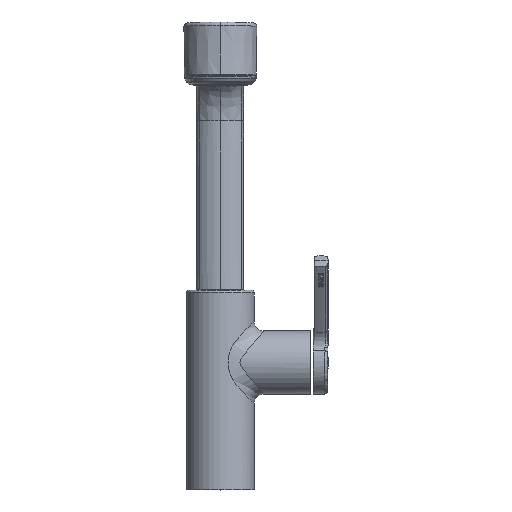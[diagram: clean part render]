
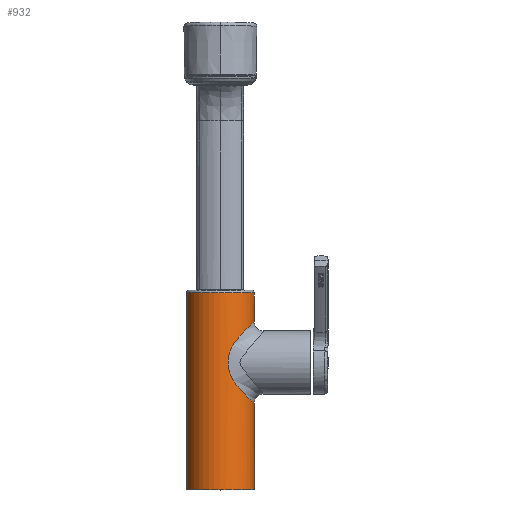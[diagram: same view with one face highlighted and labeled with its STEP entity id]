
A CAD part, top view. The second image highlights one B-rep face of the part: STEP entity #932.
In plain terms, the highlighted cylindrical face has radius 22.5 mm (diameter 45 mm), a partial arc.
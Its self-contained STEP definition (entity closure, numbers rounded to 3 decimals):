
#16=CARTESIAN_POINT('',(22.5,57.5,0.));
#94=CARTESIAN_POINT('',(22.5,111.5,0.));
#124=DIRECTION('',(0.,1.,0.));
#125=VECTOR('',#124,130.731);
#126=CARTESIAN_POINT('',(-22.5,0.,0.));
#127=LINE('',#126,#125);
#128=CARTESIAN_POINT('',(0.,130.731,0.));
#129=DIRECTION('',(0.,1.,0.));
#130=DIRECTION('',(-1.,0.,0.));
#131=AXIS2_PLACEMENT_3D('',#128,#129,#130);
#133=DIRECTION('',(0.,1.,0.));
#134=VECTOR('',#133,19.231);
#135=CARTESIAN_POINT('',(22.5,111.5,0.));
#136=LINE('',#135,#134);
#137=CARTESIAN_POINT('',(22.5,111.5,0.));
#138=CARTESIAN_POINT('',(22.5,111.5,0.206));
#139=CARTESIAN_POINT('',(22.494,111.496,0.621));
#140=CARTESIAN_POINT('',(22.468,111.477,1.25));
#141=CARTESIAN_POINT('',(22.423,111.445,1.893));
#142=CARTESIAN_POINT('',(22.358,111.396,2.555));
#143=CARTESIAN_POINT('',(22.268,111.328,3.246));
#144=CARTESIAN_POINT('',(22.15,111.236,3.979));
#145=CARTESIAN_POINT('',(21.995,111.113,4.765));
#146=CARTESIAN_POINT('',(21.794,110.95,5.616));
#147=CARTESIAN_POINT('',(21.537,110.737,6.539));
#148=CARTESIAN_POINT('',(21.196,110.447,7.577));
#149=CARTESIAN_POINT('',(20.773,110.076,8.67));
#150=CARTESIAN_POINT('',(20.3,109.649,9.727));
#151=CARTESIAN_POINT('',(19.76,109.149,10.783));
#152=CARTESIAN_POINT('',(19.158,108.58,11.82));
#153=CARTESIAN_POINT('',(18.492,107.935,12.836));
#154=CARTESIAN_POINT('',(17.77,107.217,13.821));
#155=CARTESIAN_POINT('',(16.954,106.388,14.811));
#156=CARTESIAN_POINT('',(16.082,105.483,15.753));
#157=CARTESIAN_POINT('',(15.12,104.46,16.681));
#158=CARTESIAN_POINT('',(14.052,103.303,17.591));
#159=CARTESIAN_POINT('',(12.936,102.07,18.427));
#160=CARTESIAN_POINT('',(11.786,100.758,19.181));
#161=CARTESIAN_POINT('',(10.713,99.477,19.797));
#162=CARTESIAN_POINT('',(9.806,98.309,20.258));
#163=CARTESIAN_POINT('',(8.994,97.159,20.63));
#164=CARTESIAN_POINT('',(8.274,96.02,20.928));
#165=CARTESIAN_POINT('',(7.623,94.855,21.173));
#166=CARTESIAN_POINT('',(7.053,93.68,21.368));
#167=CARTESIAN_POINT('',(6.573,92.524,21.52));
#168=CARTESIAN_POINT('',(6.184,91.417,21.634));
#169=CARTESIAN_POINT('',(5.875,90.368,21.72));
#170=CARTESIAN_POINT('',(5.649,89.445,21.78));
#171=CARTESIAN_POINT('',(5.487,88.646,21.821));
#172=CARTESIAN_POINT('',(5.36,87.905,21.852));
#173=CARTESIAN_POINT('',(5.247,87.068,21.88));
#174=CARTESIAN_POINT('',(5.162,86.165,21.9));
#175=CARTESIAN_POINT('',(5.119,85.37,21.91));
#176=CARTESIAN_POINT('',(5.101,84.59,21.914));
#177=CARTESIAN_POINT('',(5.114,83.72,21.911));
#178=CARTESIAN_POINT('',(5.157,82.905,21.901));
#179=CARTESIAN_POINT('',(5.225,82.131,21.885));
#180=CARTESIAN_POINT('',(5.318,81.351,21.863));
#181=CARTESIAN_POINT('',(5.45,80.501,21.83));
#182=CARTESIAN_POINT('',(5.632,79.582,21.784));
#183=CARTESIAN_POINT('',(5.856,78.656,21.725));
#184=CARTESIAN_POINT('',(6.155,77.627,21.643));
#185=CARTESIAN_POINT('',(6.547,76.512,21.528));
#186=CARTESIAN_POINT('',(7.031,75.355,21.376));
#187=CARTESIAN_POINT('',(7.6,74.193,21.181));
#188=CARTESIAN_POINT('',(8.237,73.054,20.942));
#189=CARTESIAN_POINT('',(8.987,71.867,20.633));
#190=CARTESIAN_POINT('',(9.822,70.683,20.251));
#191=CARTESIAN_POINT('',(10.762,69.467,19.77));
#192=CARTESIAN_POINT('',(11.83,68.184,19.153));
#193=CARTESIAN_POINT('',(12.936,66.921,18.426));
#194=CARTESIAN_POINT('',(14.044,65.7,17.598));
#195=CARTESIAN_POINT('',(15.118,64.541,16.684));
#196=CARTESIAN_POINT('',(16.084,63.515,15.752));
#197=CARTESIAN_POINT('',(16.964,62.601,14.799));
#198=CARTESIAN_POINT('',(17.785,61.765,13.801));
#199=CARTESIAN_POINT('',(18.498,61.054,12.827));
#200=CARTESIAN_POINT('',(19.159,60.415,11.818));
#201=CARTESIAN_POINT('',(19.758,59.85,10.787));
#202=CARTESIAN_POINT('',(20.298,59.352,9.732));
#203=CARTESIAN_POINT('',(20.773,58.925,8.671));
#204=CARTESIAN_POINT('',(21.197,58.554,7.575));
#205=CARTESIAN_POINT('',(21.537,58.264,6.538));
#206=CARTESIAN_POINT('',(21.794,58.051,5.616));
#207=CARTESIAN_POINT('',(21.995,57.889,4.765));
#208=CARTESIAN_POINT('',(22.15,57.766,3.979));
#209=CARTESIAN_POINT('',(22.268,57.673,3.246));
#210=CARTESIAN_POINT('',(22.358,57.605,2.555));
#211=CARTESIAN_POINT('',(22.423,57.556,1.893));
#212=CARTESIAN_POINT('',(22.468,57.523,1.25));
#213=CARTESIAN_POINT('',(22.494,57.504,0.621));
#214=CARTESIAN_POINT('',(22.5,57.5,0.206));
#215=CARTESIAN_POINT('',(22.5,57.5,0.));
#217=DIRECTION('',(0.,1.,0.));
#218=VECTOR('',#217,57.5);
#219=CARTESIAN_POINT('',(22.5,0.,0.));
#220=LINE('',#219,#218);
#221=CARTESIAN_POINT('',(0.,0.,0.));
#222=DIRECTION('',(0.,-1.,0.));
#223=DIRECTION('',(1.,0.,0.));
#224=AXIS2_PLACEMENT_3D('',#221,#222,#223);
#419=CARTESIAN_POINT('',(22.5,0.,0.));
#420=CARTESIAN_POINT('',(-22.5,0.,0.));
#421=VERTEX_POINT('',#419);
#422=VERTEX_POINT('',#420);
#435=CARTESIAN_POINT('',(22.5,130.731,0.));
#436=CARTESIAN_POINT('',(-22.5,130.731,0.));
#437=VERTEX_POINT('',#435);
#438=VERTEX_POINT('',#436);
#439=VERTEX_POINT('',#16);
#440=VERTEX_POINT('',#94);
#917=CARTESIAN_POINT('',(0.,-6.645,0.));
#918=DIRECTION('',(0.,1.,0.));
#919=DIRECTION('',(1.,0.,0.));
#920=AXIS2_PLACEMENT_3D('',#917,#918,#919);
#921=CYLINDRICAL_SURFACE('',#920,22.5);
#922=ORIENTED_EDGE('',*,*,#852,.T.);
#923=ORIENTED_EDGE('',*,*,#911,.T.);
#924=ORIENTED_EDGE('',*,*,#859,.F.);
#926=ORIENTED_EDGE('',*,*,#925,.T.);
#927=ORIENTED_EDGE('',*,*,#856,.F.);
#929=ORIENTED_EDGE('',*,*,#928,.T.);
#930=EDGE_LOOP('',(#922,#923,#924,#926,#927,#929));
#931=FACE_OUTER_BOUND('',#930,.F.);
#932=ADVANCED_FACE('',(#931),#921,.T.);
#132=CIRCLE('',#131,22.5);
#216=B_SPLINE_CURVE_WITH_KNOTS('',3,(#137,#138,#139,#140,#141,#142,#143,#144,
#145,#146,#147,#148,#149,#150,#151,#152,#153,#154,#155,#156,#157,#158,#159,#160,
#161,#162,#163,#164,#165,#166,#167,#168,#169,#170,#171,#172,#173,#174,#175,#176,
#177,#178,#179,#180,#181,#182,#183,#184,#185,#186,#187,#188,#189,#190,#191,#192,
#193,#194,#195,#196,#197,#198,#199,#200,#201,#202,#203,#204,#205,#206,#207,#208,
#209,#210,#211,#212,#213,#214,#215),.UNSPECIFIED.,.F.,.F.,(4,1,1,1,1,1,1,1,1,1,
1,1,1,1,1,1,1,1,1,1,1,1,1,1,1,1,1,1,1,1,1,1,1,1,1,1,1,1,1,1,1,1,1,1,1,1,1,1,1,1,
1,1,1,1,1,1,1,1,1,1,1,1,1,1,1,1,1,1,1,1,1,1,1,1,1,1,4),(0.,0.013,
0.026,0.039,0.053,0.066,
0.079,0.092,0.105,0.118,
0.132,0.145,0.158,0.171,
0.184,0.197,0.211,0.224,
0.237,0.25,0.263,0.276,0.289,
0.303,0.316,0.329,0.342,
0.355,0.368,0.382,0.395,
0.408,0.421,0.434,0.447,
0.461,0.474,0.487,0.5,0.513,
0.526,0.539,0.553,0.566,
0.579,0.592,0.605,0.618,
0.632,0.645,0.658,0.671,
0.684,0.697,0.711,0.724,
0.737,0.75,0.763,0.776,0.789,
0.803,0.816,0.829,0.842,
0.855,0.868,0.882,0.895,
0.908,0.921,0.934,0.947,
0.961,0.974,0.987,1.),.UNSPECIFIED.);
#225=CIRCLE('',#224,22.5);
#852=EDGE_CURVE('',#422,#438,#127,.T.);
#856=EDGE_CURVE('',#421,#439,#220,.T.);
#859=EDGE_CURVE('',#440,#437,#136,.T.);
#911=EDGE_CURVE('',#438,#437,#132,.T.);
#925=EDGE_CURVE('',#440,#439,#216,.T.);
#928=EDGE_CURVE('',#421,#422,#225,.T.);
